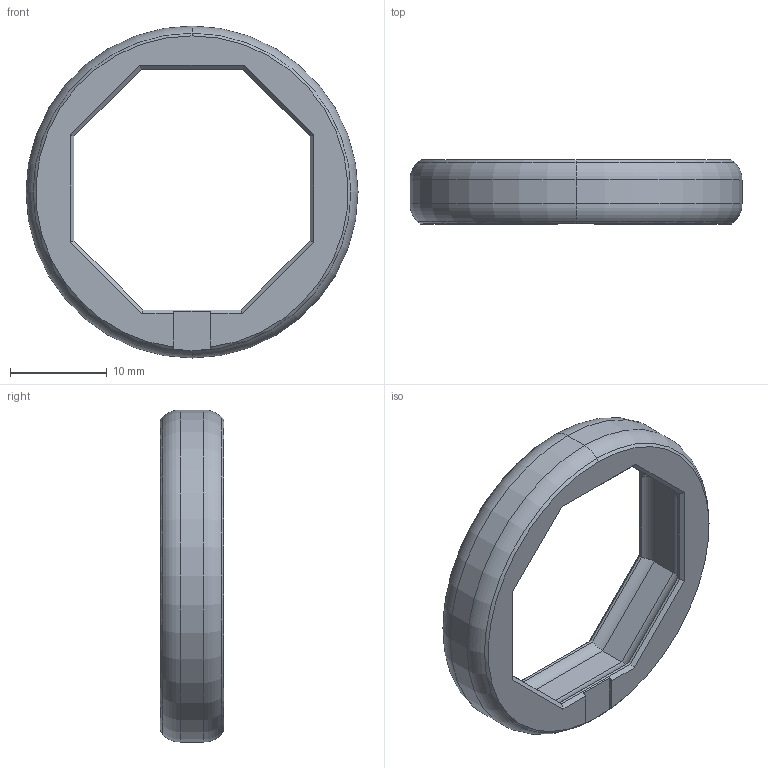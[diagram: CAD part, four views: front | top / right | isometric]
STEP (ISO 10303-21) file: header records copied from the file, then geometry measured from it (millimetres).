
FILE_DESCRIPTION(('FreeCAD Model'),'2;1');
FILE_NAME( 'D:/2015 new/openBCI/M3 Cad/M3K parts/M3K_Node socket_1.35inch.STEP', '2015-11-05T13:36:59',('FreeCAD'),('FreeCAD'), 'Open CASCADE STEP processor 6.3','FreeCAD','Unknown');
FILE_SCHEMA(('AUTOMOTIVE_DESIGN_CC2 { 1 2 10303 214 -1 1 5 4 }'));
Length unit declared in the file: millimetre
Products named in the file (1): M3_NodeSocket_09_1.35inch
Bounding box: 34.29 x 6.6 x 34.29 mm (x, y, z)
Volume: 2421.4 mm3; surface area: 1930.2 mm2
Topology: 1 solids, 1 shells, 74 faces, 170 edges, 96 vertices
Faces by surface type: plane 48, cylinder 18, torus 4, cone 4
Entity records: 5868 total; most frequent: CARTESIAN_POINT 2654, DIRECTION 526, ORIENTED_EDGE 340, PCURVE 340, DEFINITIONAL_REPRESENTATION 340, LINE 334, VECTOR 334, EDGE_CURVE 170
